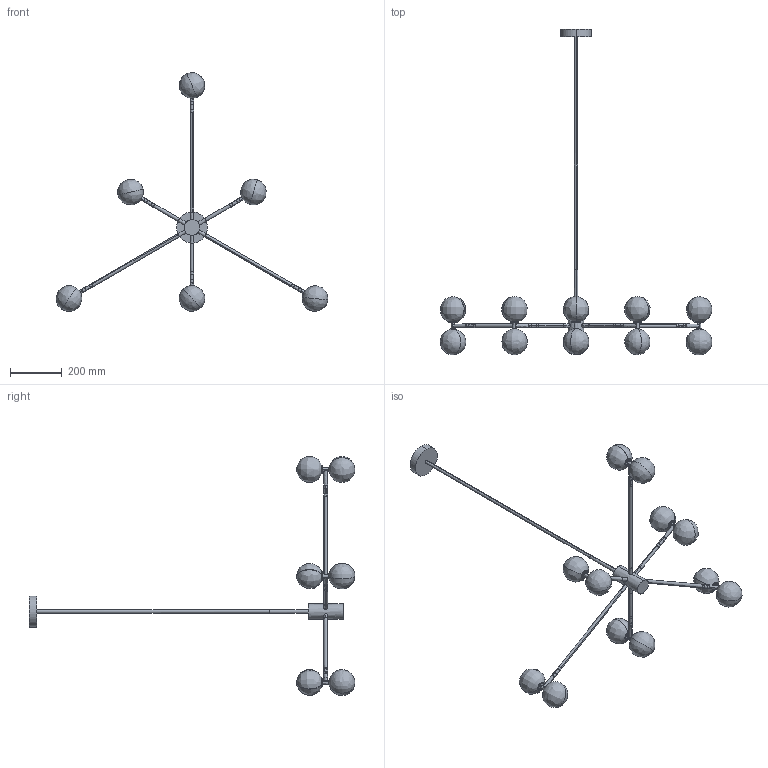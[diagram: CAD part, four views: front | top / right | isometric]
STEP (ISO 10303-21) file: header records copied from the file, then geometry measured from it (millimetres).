
FILE_DESCRIPTION (( 'STEP AP214' ), '1' );
FILE_NAME ('CU1280-6.STEP', '2026-06-09T08:50:53', ( '' ), ( '' ), 'SwSTEP 2.0', 'SolidWorks 2023', '' );
FILE_SCHEMA (( 'AUTOMOTIVE_DESIGN' ));
Length unit declared in the file: inch
Products named in the file (1): CU1280-6
Bounding box: 1050.63 x 1258.61 x 923.23 mm (x, y, z)
Surface area: 794910.7 mm2 (no closed solid volume)
Topology: 0 solids, 95 shells, 376 faces, 874 edges, 564 vertices
Faces by surface type: bspline 372, cylinder 2, plane 2
Entity records: 21023 total; most frequent: CARTESIAN_POINT 15556, ORIENTED_EDGE 1430, EDGE_CURVE 802, VERTEX_POINT 564, B_SPLINE_CURVE_WITH_KNOTS 491, EDGE_LOOP 411, ADVANCED_FACE 376, FACE_OUTER_BOUND 376
